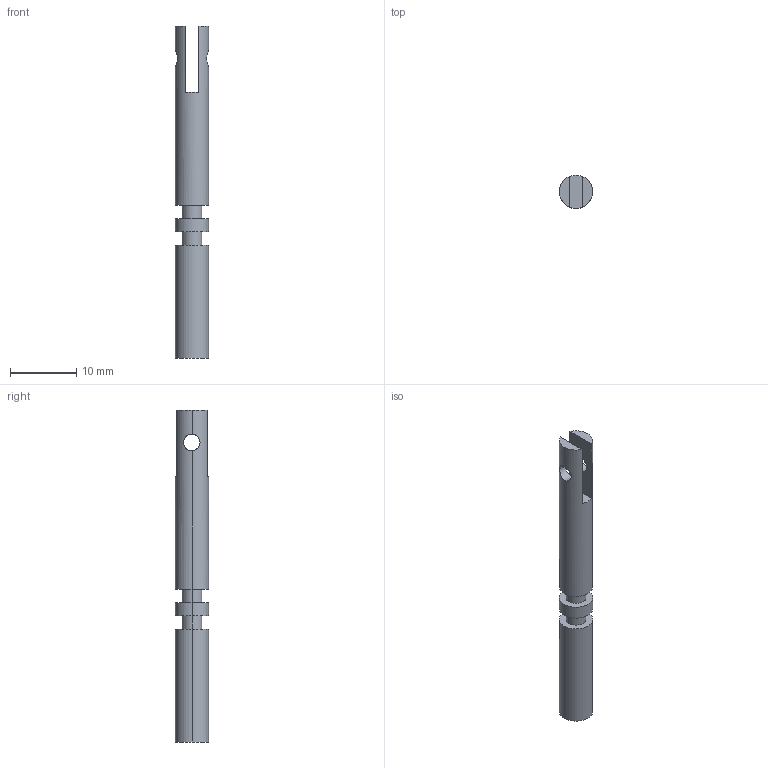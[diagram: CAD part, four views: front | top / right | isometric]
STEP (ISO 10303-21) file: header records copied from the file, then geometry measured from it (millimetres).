
FILE_DESCRIPTION (( 'STEP AP214' ), '1' );
FILE_NAME ('CESV-R.STEP', '2019-05-17T11:37:40', ( '' ), ( '' ), 'SwSTEP 2.0', 'SolidWorks 2018', '' );
FILE_SCHEMA (( 'AUTOMOTIVE_DESIGN' ));
Length unit declared in the file: millimetre
Products named in the file (1): CESV-R
Bounding box: 5 x 5 x 50 mm (x, y, z)
Volume: 820.3 mm3; surface area: 901.3 mm2
Topology: 1 solids, 1 shells, 24 faces, 60 edges, 40 vertices
Faces by surface type: cylinder 14, plane 10
Entity records: 1118 total; most frequent: CARTESIAN_POINT 221, DIRECTION 130, ORIENTED_EDGE 120, EDGE_CURVE 60, AXIS2_PLACEMENT_3D 53, VERTEX_POINT 40, EDGE_LOOP 30, CIRCLE 28
